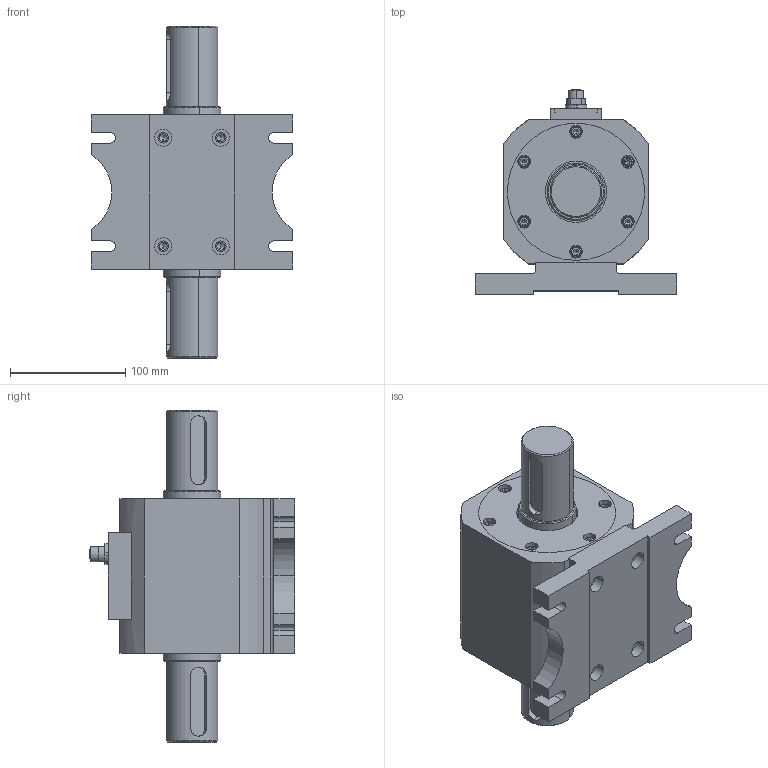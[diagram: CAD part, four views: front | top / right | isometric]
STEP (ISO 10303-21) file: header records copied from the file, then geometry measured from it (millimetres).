
FILE_DESCRIPTION (( 'STEP AP214' ), '1' );
FILE_NAME ('WTQ-2053蚾饜极俋倛芞.STEP', '2023-04-08T06:49:06', ( '' ), ( '' ), 'SwSTEP 2.0', 'SolidWorks 2014', '' );
FILE_SCHEMA (( 'AUTOMOTIVE_DESIGN' ));
Length unit declared in the file: millimetre
Products named in the file (9): WTQ-2053菁釱; WTQ-2053粟俶粣; hex lobular socket head cap screws-8.8 gb_GB_HEXAGON_TYPE22 M6X16-N; WTQ-2053傷裔; 瑤脣菁釱; 醱啣; WTQ-205X炵蹈奻裔; WTQ-2053俋褲; WTQ-2053蚾饜极俋倛芞
Assembly tree (23 placements, depth 2):
  WTQ-2053蚾饜极俋倛芞
    WTQ-2053俋褲
    WTQ-205X炵蹈奻裔
    醱啣
    瑤脣菁釱
    WTQ-2053傷裔  x2
    hex lobular socket head cap screws-8.8 gb_GB_HEXAGON_TYPE22 M6X16-N  x15
    WTQ-2053粟俶粣
    WTQ-2053菁釱
Bounding box: 175 x 177.9 x 288 mm (x, y, z)
Volume: 2084462 mm3; surface area: 320150.7 mm2
Topology: 24 solids, 24 shells, 1656 faces, 4118 edges, 2629 vertices
Faces by surface type: plane 805, cylinder 368, bspline 307, cone 130, torus 46
Entity records: 63139 total; most frequent: CARTESIAN_POINT 24323, ORIENTED_EDGE 6712, DIRECTION 5370, EDGE_CURVE 3356, VERTEX_POINT 2217, LINE 2038, VECTOR 2038, AXIS2_PLACEMENT_3D 1666
